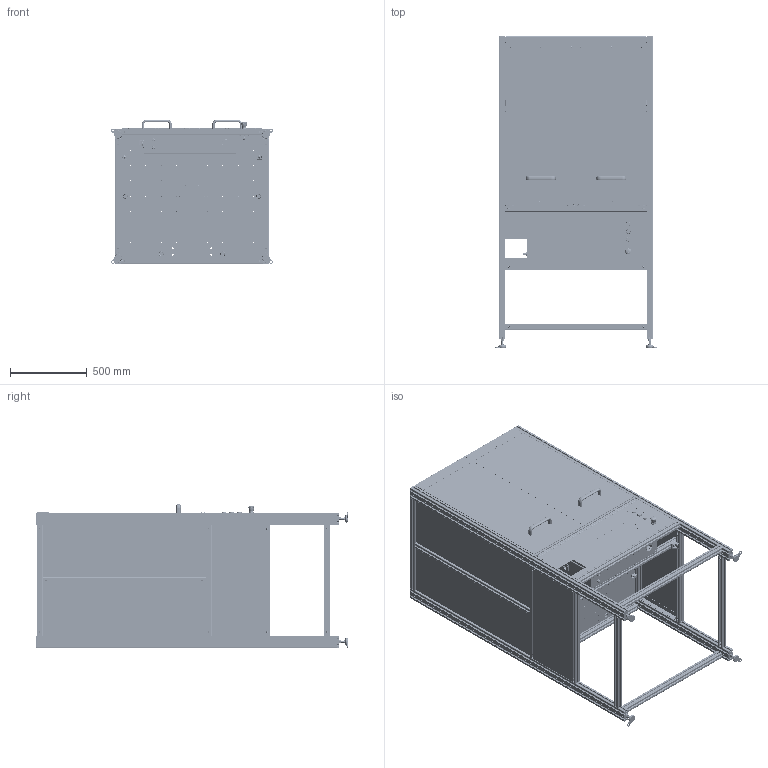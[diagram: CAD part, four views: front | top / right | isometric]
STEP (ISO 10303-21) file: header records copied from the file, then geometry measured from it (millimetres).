
FILE_DESCRIPTION(/* description */ (''),/* implementation_level */ '2;1');
FILE_NAME(/* name */ 'C:\$WorkingFolder\EngineeringData\2022 projects\sigamo\ROBOCU\ROBOCU-CUBE-ASM-4000_REV-A.stp',/* time_stamp */ '2022-05-24T13:36:31+01:00',/* author */ ('salta'),/* organization */ (''),/* preprocessor_version */ 'ST-DEVELOPER v19',/* originating_system */ 'Autodesk Inventor 2023',/* authorisation */ '');
FILE_SCHEMA (('AUTOMOTIVE_DESIGN { 1 0 10303 214 3 1 1 }'));
Products named in the file (236): ROBOCU-CUBE-ASM-4000; ROBOCU-FRME-ASM-0000; ROBOCU-FRME-ASM-0001; ROBOCU-FRME-PUR-0007; STRUT_PROFILE_40X80L; LEBURO-BASE-PUR-0016; LEBURO-BASE-PUR-0016_1; ROBOCU-FRME-PUR-0011; Levelling foot GN 32-50-M12-80-A1-SK; _Levelling foot GN 32-50-M12-80-A1-SK (0)-1; _Levelling foot GN 32-50-M12-80-A1-SK (0)-2; _Levelling foot GN 32-M12-3; LEBURO-BASE-PUR-0016_2; ROBOCU-FRME-PUR-0010; PLATE_40X80_3842536562; 40x80-M12-3842536562; DIN 7984 - M12 x 20 - ST88-VZP; Cap_40x80_Grey_3842548748; LEBURO-BASE-PUR-0016_3; Angle bar anodized Alu 30x30x2; Angle bar anodized Alu 30x30x2_1; ROBOCU-FRME-PUR-0013; ROBOCU-FRME-PUR-0014; ROBOCU-FRME-STM-0011; ISO 4762  - M8 x 12 - ST88-VZK; ROBOCU-BASE-ASM-0004; ROBOCU-BASE-CNC-0004; DLE-DR-0004; DLE-DR-0004-ETY-DR-0008; DLE-DR-0004-ETY-DR-0013; DLE-DR-0004-ZLW-1040S-G0BW0-D0H1C-AN0A0AA-150; DLE-DR-0004-ZSX-104001-konfig; DLE-DR-0004-ZTL-104002; DLE-DR-0004-SAXT-104001; DLE-DR-0004-ZTL-10400S-V; DLE-DR-0004-SAWT-104002; DLE-DR-0004-NOR-10412; DLE-DR-0004-ZR-104001-konfig; DLE-DR-0004-ZR-104001-XX-konfig; DLE-DR-0004-ZSY-104002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
Assembly tree (617 placements, depth 7):
  ROBOCU-CUBE-ASM-4000
    ROBOCU-FRME-ASM-0000
      ROBOCU-FRME-ASM-0001
        ROBOCU-FRME-PUR-0007
        STRUT_PROFILE_40X80L  x4
        LEBURO-BASE-PUR-0016  x2
        LEBURO-BASE-PUR-0016_1  x8
        ROBOCU-FRME-PUR-0010  x4
        ROBOCU-FRME-PUR-0011
        Levelling foot GN 32-50-M12-80-A1-SK  x4
          _Levelling foot GN 32-50-M12-80-A1-SK (0)-1
          _Levelling foot GN 32-50-M12-80-A1-SK (0)-2
          _Levelling foot GN 32-M12-3
        QUICK_CONNECTOR_10_3842535458  x34
          2022_03_23_15_17_45_0546
          2022_03_23_15_17_45_0515
          2022_03_23_15_17_45_0437
        LEBURO-BASE-PUR-0016_2  x7
        PLATE_40X80_3842536562  x4
          40x80-M12-3842536562
          DIN 7984 - M12 x 20 - ST88-VZP
        Cap_40x80_Grey_3842548748  x4
        Bracket_40_40_with_fastening_set_3842529383  x2
          Gusset_40_40_3842528967
          T_BOLT_3842528715
          FLANGE_NUT_M8_3842345081
        LEBURO-BASE-PUR-0016_3
        Angle bar anodized Alu 30x30x2  x4
        Angle bar anodized Alu 30x30x2_1  x4
        ISO 4762  - M8 x 12 - ST88-VZK  x16
        T_NUT_N10_3842530287  x16
      ROBOCU-FRME-PUR-0013  x2
      ROBOCU-FRME-PUR-0014
      ROBOCU-FRME-STM-0011
      ISO 4762  - M8 x 12 - ST88-VZK  x4
      T_NUT_N10_3842530287  x4
    ROBOCU-BASE-ASM-0004
      ROBOCU-BASE-CNC-0004
      DLE-DR-0004
        DLE-DR-0004-ETY-DR-0008
        DLE-DR-0004-ETY-DR-0013  x3
        DLE-DR-0004-ZLW-1040S-G0BW0-D0H1C-AN0A0AA-150  x3
          DLE-DR-0004-ZSX-104001-konfig
          DLE-DR-0004-ZTL-104002
            DLE-DR-0004-SAXT-104001
            DLE-DR-0004-SAXT-104002
            DLE-DR-0004-NOR-10614  x2
            DLE-DR-0004-ZTL-10400S-V
              DLE-DR-0004-SAWT-104002
              DLE-DR-0004-NOR-10412  x4
              DLE-DR-0004-NOR-10604  x4
              DLE-DR-0004-JTEM-10  x4
              DLE-DR-0004-NOR-20901  x2
              DLE-DR-0004-ZTY-104035  x2
            DLE-DR-0004-ZTZ-104009  x2
          DLE-DR-0004-ZR-104001-konfig
            DLE-DR-0004-ZR-104001-XX-konfig
            DLE-DR-0004-NOR-10735  x2
            DLE-DR-0004-ZSY-104002  x2
          DLE-DR-0004-ZTF-104004
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Bounding box: 1054.14 x 2030.6 x 938.36 mm (x, y, z)
Volume: 67080465.9 mm3; surface area: 33321468.7 mm2
Topology: 860 solids, 860 shells, 42440 faces, 114415 edges, 74589 vertices
Faces by surface type: plane 27544, cylinder 9699, cone 2168, bspline 1415, torus 1324, sphere 290
Full cylindrical faces by diameter (mm): 0.5 x12, 0.7 x12, 0.927 x21, 1 x10, 1.1 x2, 1.2 x2, 1.5 x69, 1.8 x37, 1.94 x1, 2 x16, 2.3 x4, 2.4 x4, 2.5 x8, 2.6 x21, 2.65 x8, 3 x20, 3.05 x4, 3.1 x2, 3.2 x5, 3.242 x22, 3.3 x6, 3.37 x2, 3.4 x26, 3.5 x16, 3.571 x2, 3.61 x2, 3.7 x5, 4 x149, 4.018 x12, 4.1 x24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
Entity records: 556734 total; most frequent: CARTESIAN_POINT 138810, ORIENTED_EDGE 85552, DIRECTION 82283, EDGE_CURVE 42776, LINE 31911, VECTOR 31911, VERTEX_POINT 28044, AXIS2_PLACEMENT_3D 25186
